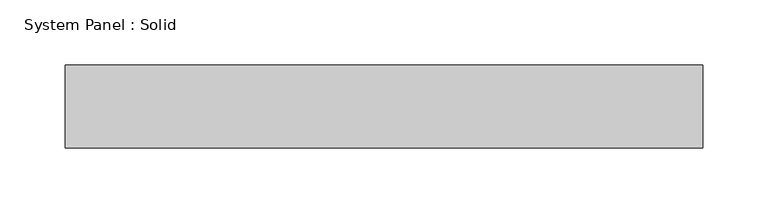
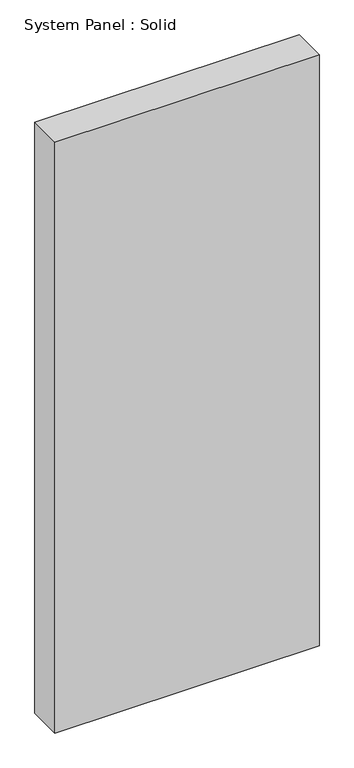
"""IFC4 building model written with IfcOpenShell, lengths in millimetres: plate geometry, System Panel : Solid."""

from ifc_helpers import new_model, si_unit, origin, origin_with_axes, place, context, project, spatial, polyline, outline, extrude, source, transform, mapped, element, save


def system_panel_solid_a9b7ce64(model_context):
    return source(origin(), model_context, "Body", "SweptSolid", [
        extrude(outline(polyline([(244.475, -44.45), (-244.475, -44.45), (-244.475, 19.05), (244.475, 19.05), (244.475, -44.45)])), origin_with_axes(), (0.0, 0.0, 1.0), 1155.7),
    ])


if __name__ == "__main__":
    model = new_model("IFC4")
    model_context = context("Model", 3, world=origin())
    ifc_project = project(units=[si_unit("LENGTHUNIT", "METRE", prefix="MILLI")], contexts=[model_context])
    site = spatial("IfcSite", under=ifc_project)
    building = spatial("IfcBuilding", under=site)
    placement = place(None, origin())
    system_panel_solid_shape = system_panel_solid_a9b7ce64(model_context)
    element("IfcPlate", 1, ObjectType="System Panel : Solid", at=placement, inside=building, context=model_context, shape_type="MappedRepresentation", body=[
        mapped(system_panel_solid_shape, transform((0.0, 0.0, 0.0), x_axis=(1.0, 0.0, 0.0), y_axis=(0.0, 1.0, 0.0), z_axis=(0.0, 0.0, 1.0))),
    ])
    save(model, "model.ifc")
